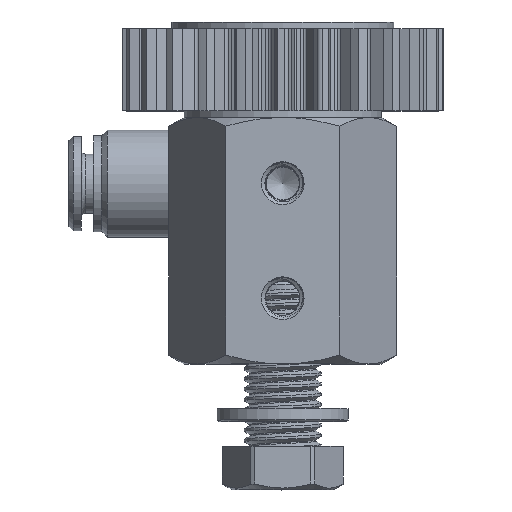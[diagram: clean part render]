
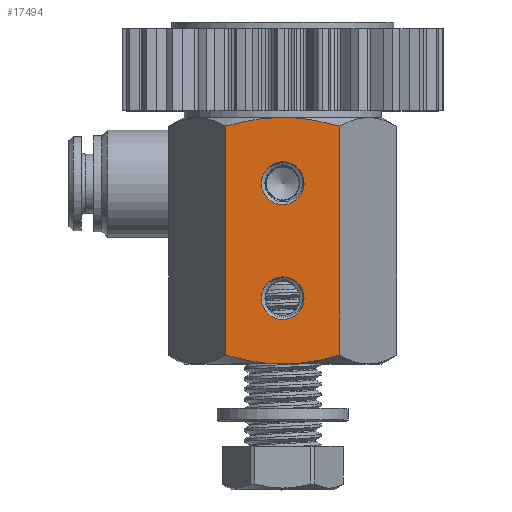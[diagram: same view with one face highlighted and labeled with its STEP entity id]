
A CAD part, top view. The second image highlights one B-rep face of the part: STEP entity #17494.
In plain terms, the highlighted planar face has unit normal (0, 0, 1).
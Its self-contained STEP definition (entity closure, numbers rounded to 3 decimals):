
#281 = CARTESIAN_POINT ( 'NONE',  ( 6.928, 1.072, 12. ) ) ;
#822 = EDGE_CURVE ( 'NONE', #3791, #3791, #10590, .T. ) ;
#827 = EDGE_LOOP ( 'NONE', ( #24637 ) ) ;
#1406 = CARTESIAN_POINT ( 'NONE',  ( 2.6, 8., 12. ) ) ;
#3064 = CARTESIAN_POINT ( 'NONE',  ( -1.186, 0., 12. ) ) ;
#3154 = EDGE_CURVE ( 'NONE', #45535, #45535, #38885, .T. ) ;
#3409 = VECTOR ( 'NONE', #32933, 1000. ) ;
#3648 = CARTESIAN_POINT ( 'NONE',  ( 0., 30., 12. ) ) ;
#3791 = VERTEX_POINT ( 'NONE', #36835 ) ;
#3988 = FACE_BOUND ( 'NONE', #827, .T. ) ;
#4170 = DIRECTION ( 'NONE',  ( 0., -1., 0. ) ) ;
#4275 = CARTESIAN_POINT ( 'NONE',  ( 0., 0., 12. ) ) ;
#4365 = CARTESIAN_POINT ( 'NONE',  ( -6.928, 30., 12. ) ) ;
#4675 = FACE_BOUND ( 'NONE', #22952, .T. ) ;
#4699 = CARTESIAN_POINT ( 'NONE',  ( 0., 0., 12. ) ) ;
#4855 = LINE ( 'NONE', #15246, #24049 ) ;
#6636 = ORIENTED_EDGE ( 'NONE', *, *, #38463, .T. ) ;
#7158 = VERTEX_POINT ( 'NONE', #4699 ) ;
#7353 = CARTESIAN_POINT ( 'NONE',  ( 5.801, 0.746, 12. ) ) ;
#7387 = VERTEX_POINT ( 'NONE', #34907 ) ;
#7580 = VERTEX_POINT ( 'NONE', #42828 ) ;
#8047 = CARTESIAN_POINT ( 'NONE',  ( 1.183, 0.026, 12. ) ) ;
#8096 = CARTESIAN_POINT ( 'NONE',  ( 0., 30., 12. ) ) ;
#8291 = AXIS2_PLACEMENT_3D ( 'NONE', #20393, #45203, #35053 ) ;
#8370 = VERTEX_POINT ( 'NONE', #38694 ) ;
#9815 = CARTESIAN_POINT ( 'NONE',  ( -6.928, 28.928, 12. ) ) ;
#10100 = B_SPLINE_CURVE_WITH_KNOTS ( 'NONE', 3,
 ( #8096, #39330, #17140, #18701, #28699, #20904, #24650, #21371 ),
 .UNSPECIFIED., .F., .F.,
 ( 4, 2, 2, 4 ),
 ( 0.022, 0.024, 0.026, 0.029 ),
 .UNSPECIFIED. ) ;
#10590 = CIRCLE ( 'NONE', #8291, 2.6 ) ;
#10868 = EDGE_CURVE ( 'NONE', #7387, #8370, #4855, .T. ) ;
#10900 = CARTESIAN_POINT ( 'NONE',  ( 4.663, 0.477, 12. ) ) ;
#11065 = CARTESIAN_POINT ( 'NONE',  ( -4.661, 0.477, 12. ) ) ;
#11193 = B_SPLINE_CURVE_WITH_KNOTS ( 'NONE', 3,
 ( #35050, #36000, #46610, #13799, #31513, #3648 ),
 .UNSPECIFIED., .F., .F.,
 ( 4, 2, 4 ),
 ( 0.015, 0.019, 0.022 ),
 .UNSPECIFIED. ) ;
#11749 = AXIS2_PLACEMENT_3D ( 'NONE', #43079, #25075, #39289 ) ;
#13232 = EDGE_CURVE ( 'NONE', #7580, #21720, #10100, .T. ) ;
#13350 = B_SPLINE_CURVE_WITH_KNOTS ( 'NONE', 3,
 ( #4275, #14662, #8047, #43908, #22403, #10900, #7353, #281 ),
 .UNSPECIFIED., .F., .F.,
 ( 4, 2, 2, 4 ),
 ( 0.022, 0.024, 0.026, 0.029 ),
 .UNSPECIFIED. ) ;
#13799 = CARTESIAN_POINT ( 'NONE',  ( 2.354, 29.897, 12. ) ) ;
#13835 = ORIENTED_EDGE ( 'NONE', *, *, #15387, .T. ) ;
#14662 = CARTESIAN_POINT ( 'NONE',  ( 0.593, 0., 12. ) ) ;
#14918 = EDGE_CURVE ( 'NONE', #7387, #7580, #11193, .T. ) ;
#15246 = CARTESIAN_POINT ( 'NONE',  ( 6.928, 30., 12. ) ) ;
#15387 = EDGE_CURVE ( 'NONE', #7158, #8370, #13350, .T. ) ;
#17140 = CARTESIAN_POINT ( 'NONE',  ( -1.183, 29.974, 12. ) ) ;
#17435 = CARTESIAN_POINT ( 'NONE',  ( 0., 0., 12. ) ) ;
#17494 = ADVANCED_FACE ( 'NONE', ( #3988, #4675, #43196 ), #19048, .T. ) ;
#18701 = CARTESIAN_POINT ( 'NONE',  ( -2.353, 29.876, 12. ) ) ;
#18867 = ORIENTED_EDGE ( 'NONE', *, *, #822, .T. ) ;
#19048 = PLANE ( 'NONE',  #27972 ) ;
#20393 = CARTESIAN_POINT ( 'NONE',  ( 0., 22., 12. ) ) ;
#20904 = CARTESIAN_POINT ( 'NONE',  ( -4.663, 29.523, 12. ) ) ;
#21371 = CARTESIAN_POINT ( 'NONE',  ( -6.928, 28.928, 12. ) ) ;
#21679 = DIRECTION ( 'NONE',  ( 1., 0., 0. ) ) ;
#21720 = VERTEX_POINT ( 'NONE', #9815 ) ;
#22403 = CARTESIAN_POINT ( 'NONE',  ( 2.933, 0.197, 12. ) ) ;
#22554 = EDGE_CURVE ( 'NONE', #21720, #28279, #36032, .T. ) ;
#22952 = EDGE_LOOP ( 'NONE', ( #18867 ) ) ;
#24049 = VECTOR ( 'NONE', #4170, 1000. ) ;
#24637 = ORIENTED_EDGE ( 'NONE', *, *, #3154, .F. ) ;
#24650 = CARTESIAN_POINT ( 'NONE',  ( -5.801, 29.254, 12. ) ) ;
#25075 = DIRECTION ( 'NONE',  ( 0., 0., 1. ) ) ;
#25421 = CARTESIAN_POINT ( 'NONE',  ( -2.354, 0.103, 12. ) ) ;
#26444 = EDGE_LOOP ( 'NONE', ( #37744, #27086, #44570, #6636, #13835, #26492 ) ) ;
#26492 = ORIENTED_EDGE ( 'NONE', *, *, #10868, .F. ) ;
#27086 = ORIENTED_EDGE ( 'NONE', *, *, #13232, .T. ) ;
#27972 = AXIS2_PLACEMENT_3D ( 'NONE', #33482, #40099, #21679 ) ;
#28279 = VERTEX_POINT ( 'NONE', #35833 ) ;
#28699 = CARTESIAN_POINT ( 'NONE',  ( -2.933, 29.803, 12. ) ) ;
#31513 = CARTESIAN_POINT ( 'NONE',  ( 1.186, 30., 12. ) ) ;
#32092 = CARTESIAN_POINT ( 'NONE',  ( -6.928, 1.072, 12. ) ) ;
#32933 = DIRECTION ( 'NONE',  ( 0., -1., 0. ) ) ;
#33482 = CARTESIAN_POINT ( 'NONE',  ( 6.928, 30., 12. ) ) ;
#34907 = CARTESIAN_POINT ( 'NONE',  ( 6.928, 28.928, 12. ) ) ;
#35050 = CARTESIAN_POINT ( 'NONE',  ( 6.928, 28.928, 12. ) ) ;
#35053 = DIRECTION ( 'NONE',  ( -1., 0., 0. ) ) ;
#35833 = CARTESIAN_POINT ( 'NONE',  ( -6.928, 1.072, 12. ) ) ;
#36000 = CARTESIAN_POINT ( 'NONE',  ( 5.8, 29.254, 12. ) ) ;
#36032 = LINE ( 'NONE', #4365, #3409 ) ;
#36835 = CARTESIAN_POINT ( 'NONE',  ( -2.6, 22., 12. ) ) ;
#37744 = ORIENTED_EDGE ( 'NONE', *, *, #14918, .T. ) ;
#38463 = EDGE_CURVE ( 'NONE', #28279, #7158, #45639, .T. ) ;
#38694 = CARTESIAN_POINT ( 'NONE',  ( 6.928, 1.072, 12. ) ) ;
#38885 = CIRCLE ( 'NONE', #11749, 2.6 ) ;
#39289 = DIRECTION ( 'NONE',  ( 1., 0., 0. ) ) ;
#39330 = CARTESIAN_POINT ( 'NONE',  ( -0.593, 30., 12. ) ) ;
#40099 = DIRECTION ( 'NONE',  ( 0., 0., 1. ) ) ;
#42828 = CARTESIAN_POINT ( 'NONE',  ( 0., 30., 12. ) ) ;
#43079 = CARTESIAN_POINT ( 'NONE',  ( 0., 8., 12. ) ) ;
#43196 = FACE_OUTER_BOUND ( 'NONE', #26444, .T. ) ;
#43908 = CARTESIAN_POINT ( 'NONE',  ( 2.353, 0.124, 12. ) ) ;
#44570 = ORIENTED_EDGE ( 'NONE', *, *, #22554, .T. ) ;
#45203 = DIRECTION ( 'NONE',  ( 0., 0., -1. ) ) ;
#45535 = VERTEX_POINT ( 'NONE', #1406 ) ;
#45639 = B_SPLINE_CURVE_WITH_KNOTS ( 'NONE', 3,
 ( #32092, #46250, #11065, #25421, #3064, #17435 ),
 .UNSPECIFIED., .F., .F.,
 ( 4, 2, 4 ),
 ( 0.015, 0.019, 0.022 ),
 .UNSPECIFIED. ) ;
#46250 = CARTESIAN_POINT ( 'NONE',  ( -5.8, 0.746, 12. ) ) ;
#46610 = CARTESIAN_POINT ( 'NONE',  ( 4.661, 29.523, 12. ) ) ;
